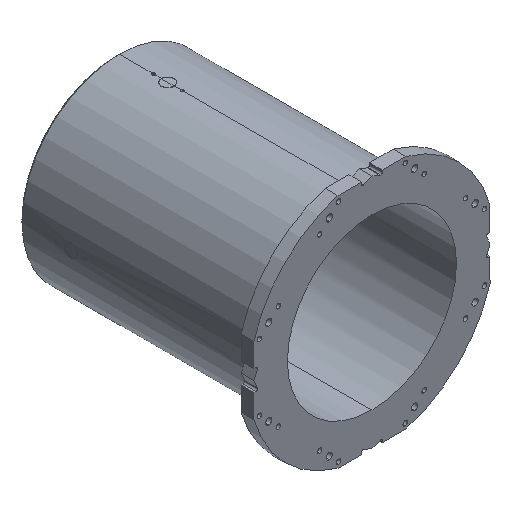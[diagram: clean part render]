
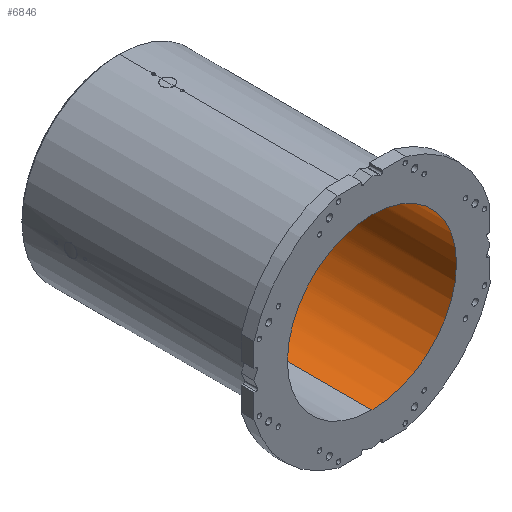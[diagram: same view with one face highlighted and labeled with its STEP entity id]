
A CAD part, isometric view. The second image highlights one B-rep face of the part: STEP entity #6846.
In plain terms, the highlighted cylindrical face has radius 265 mm (diameter 530 mm), a partial arc.
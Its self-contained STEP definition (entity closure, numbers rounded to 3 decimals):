
#323 = EDGE_LOOP ( 'NONE', ( #1375, #5325, #5182, #1112 ) ) ;
#521 = LINE ( 'NONE', #3398, #10986 ) ;
#567 = DIRECTION ( 'NONE',  ( 0., 0., 1. ) ) ;
#704 = CARTESIAN_POINT ( 'NONE',  ( 0., 0., 0. ) ) ;
#1112 = ORIENTED_EDGE ( 'NONE', *, *, #1477, .T. ) ;
#1375 = ORIENTED_EDGE ( 'NONE', *, *, #1656, .F. ) ;
#1477 = EDGE_CURVE ( 'NONE', #2715, #5941, #9077, .T. ) ;
#1505 = DIRECTION ( 'NONE',  ( 0., 1., 0. ) ) ;
#1579 = DIRECTION ( 'NONE',  ( 0., 1., 0. ) ) ;
#1656 = EDGE_CURVE ( 'NONE', #7823, #5941, #521, .T. ) ;
#1794 = CARTESIAN_POINT ( 'NONE',  ( 0., 763., 0. ) ) ;
#2715 = VERTEX_POINT ( 'NONE', #12299 ) ;
#2865 = DIRECTION ( 'NONE',  ( 0., 0., 1. ) ) ;
#3346 = AXIS2_PLACEMENT_3D ( 'NONE', #1794, #9057, #2865 ) ;
#3398 = CARTESIAN_POINT ( 'NONE',  ( 0., 0., -265. ) ) ;
#3441 = AXIS2_PLACEMENT_3D ( 'NONE', #704, #6523, #567 ) ;
#3456 = LINE ( 'NONE', #6465, #4877 ) ;
#4877 = VECTOR ( 'NONE', #1505, 1000. ) ;
#5182 = ORIENTED_EDGE ( 'NONE', *, *, #12098, .T. ) ;
#5325 = ORIENTED_EDGE ( 'NONE', *, *, #8408, .F. ) ;
#5941 = VERTEX_POINT ( 'NONE', #12557 ) ;
#6465 = CARTESIAN_POINT ( 'NONE',  ( 0., 0., 265. ) ) ;
#6523 = DIRECTION ( 'NONE',  ( 0., 1., 0. ) ) ;
#6846 = ADVANCED_FACE ( 'NONE', ( #7517 ), #9639, .F. ) ;
#6968 = CARTESIAN_POINT ( 'NONE',  ( 0., 0., 0. ) ) ;
#7517 = FACE_OUTER_BOUND ( 'NONE', #323, .T. ) ;
#7823 = VERTEX_POINT ( 'NONE', #12969 ) ;
#8171 = AXIS2_PLACEMENT_3D ( 'NONE', #6968, #8961, #13120 ) ;
#8408 = EDGE_CURVE ( 'NONE', #10027, #7823, #13034, .T. ) ;
#8961 = DIRECTION ( 'NONE',  ( 0., 1., 0. ) ) ;
#9057 = DIRECTION ( 'NONE',  ( 0., 1., 0. ) ) ;
#9077 = CIRCLE ( 'NONE', #3346, 265. ) ;
#9384 = CARTESIAN_POINT ( 'NONE',  ( 0., 0., 265. ) ) ;
#9639 = CYLINDRICAL_SURFACE ( 'NONE', #3441, 265. ) ;
#10027 = VERTEX_POINT ( 'NONE', #9384 ) ;
#10986 = VECTOR ( 'NONE', #1579, 1000. ) ;
#12098 = EDGE_CURVE ( 'NONE', #10027, #2715, #3456, .T. ) ;
#12299 = CARTESIAN_POINT ( 'NONE',  ( 0., 763., 265. ) ) ;
#12557 = CARTESIAN_POINT ( 'NONE',  ( 0., 763., -265. ) ) ;
#12969 = CARTESIAN_POINT ( 'NONE',  ( 0., 0., -265. ) ) ;
#13034 = CIRCLE ( 'NONE', #8171, 265. ) ;
#13120 = DIRECTION ( 'NONE',  ( 0., 0., 1. ) ) ;
